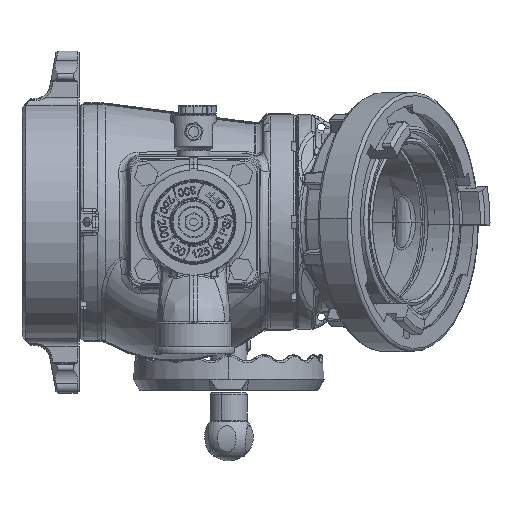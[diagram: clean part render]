
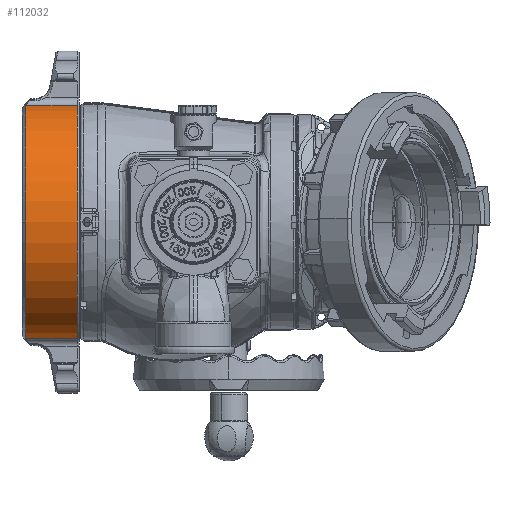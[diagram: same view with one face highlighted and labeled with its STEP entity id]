
A CAD part, front view. The second image highlights one B-rep face of the part: STEP entity #112032.
In plain terms, the highlighted cylindrical face has radius 98.425 mm (diameter 196.85 mm), a partial arc.
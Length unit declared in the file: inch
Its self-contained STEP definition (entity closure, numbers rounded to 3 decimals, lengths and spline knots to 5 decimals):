
#1856 = ORIENTED_EDGE ( 'NONE', *, *, #45121, .T. ) ;
#1859 = ORIENTED_EDGE ( 'NONE', *, *, #45125, .T. ) ;
#1862 = ORIENTED_EDGE ( 'NONE', *, *, #45128, .F. ) ;
#1865 = ORIENTED_EDGE ( 'NONE', *, *, #117697, .F. ) ;
#1868 = ORIENTED_EDGE ( 'NONE', *, *, #45130, .F. ) ;
#28394 = CARTESIAN_POINT ( 'NONE',  ( -6.01215, -1.13098, -3.81329 ) ) ;
#28396 = DIRECTION ( 'NONE',  ( 1., 0., 0. ) ) ;
#28401 = CARTESIAN_POINT ( 'NONE',  ( -6.01215, -1.13098, 3.81329 ) ) ;
#28406 = DIRECTION ( 'NONE',  ( 1., 0., 0. ) ) ;
#28423 = CARTESIAN_POINT ( 'NONE',  ( -4.21165, -0.44219, 0. ) ) ;
#28424 = DIRECTION ( 'NONE',  ( -1., 0., 0. ) ) ;
#28425 = DIRECTION ( 'NONE',  ( 0., 0., -1. ) ) ;
#28428 = CARTESIAN_POINT ( 'NONE',  ( -5.88715, -0.44219, 0. ) ) ;
#28429 = DIRECTION ( 'NONE',  ( -1., 0., 0. ) ) ;
#28430 = DIRECTION ( 'NONE',  ( 0., 1., 0. ) ) ;
#45121 = EDGE_CURVE ( 'NONE', #70167, #70149, #78098, .T. ) ;
#45125 = EDGE_CURVE ( 'NONE', #70149, #70158, #78094, .T. ) ;
#45128 = EDGE_CURVE ( 'NONE', #70770, #70158, #78100, .T. ) ;
#45130 = EDGE_CURVE ( 'NONE', #70167, #70773, #78104, .T. ) ;
#50483 = CARTESIAN_POINT ( 'NONE',  ( -4.21165, -1.13098, -3.81329 ) ) ;
#50487 = CARTESIAN_POINT ( 'NONE',  ( -4.21165, -1.13098, 3.81329 ) ) ;
#50493 = CARTESIAN_POINT ( 'NONE',  ( -5.88715, -1.13098, -3.81329 ) ) ;
#50773 = CARTESIAN_POINT ( 'NONE',  ( -5.88715, -1.13098, 3.81329 ) ) ;
#50775 = CARTESIAN_POINT ( 'NONE',  ( -5.88715, -4.31719, 0. ) ) ;
#59292 = FACE_OUTER_BOUND ( 'NONE', #135294, .T. ) ;
#59299 = CYLINDRICAL_SURFACE ( 'NONE', #69839, 3.875 ) ;
#69839 = AXIS2_PLACEMENT_3D ( 'NONE', #86588, #86584, #86572 ) ;
#70149 = VERTEX_POINT ( 'NONE', #50483 ) ;
#70158 = VERTEX_POINT ( 'NONE', #50487 ) ;
#70167 = VERTEX_POINT ( 'NONE', #50493 ) ;
#70770 = VERTEX_POINT ( 'NONE', #50773 ) ;
#70773 = VERTEX_POINT ( 'NONE', #50775 ) ;
#74138 = AXIS2_PLACEMENT_3D ( 'NONE', #153863, #153864, #153865 ) ;
#78094 = CIRCLE ( 'NONE', #138882, 3.875 ) ;
#78098 = LINE ( 'NONE', #28394, #78103 ) ;
#78100 = LINE ( 'NONE', #28401, #78108 ) ;
#78103 = VECTOR ( 'NONE', #28396, 39.37008 ) ;
#78104 = CIRCLE ( 'NONE', #138883, 3.875 ) ;
#78108 = VECTOR ( 'NONE', #28406, 39.37008 ) ;
#86572 = DIRECTION ( 'NONE',  ( 0., 0., -1. ) ) ;
#86584 = DIRECTION ( 'NONE',  ( 1., 0., 0. ) ) ;
#86588 = CARTESIAN_POINT ( 'NONE',  ( -6.01215, -0.44219, 0. ) ) ;
#112032 = ADVANCED_FACE ( 'NONE', ( #59292 ), #59299, .T. ) ;
#117697 = EDGE_CURVE ( 'NONE', #70773, #70770, #151960, .T. ) ;
#135294 = EDGE_LOOP ( 'NONE', ( #1856, #1859, #1862, #1865, #1868 ) ) ;
#138882 = AXIS2_PLACEMENT_3D ( 'NONE', #28423, #28424, #28425 ) ;
#138883 = AXIS2_PLACEMENT_3D ( 'NONE', #28428, #28429, #28430 ) ;
#151960 = CIRCLE ( 'NONE', #74138, 3.875 ) ;
#153863 = CARTESIAN_POINT ( 'NONE',  ( -5.88715, -0.44219, 0. ) ) ;
#153864 = DIRECTION ( 'NONE',  ( -1., 0., 0. ) ) ;
#153865 = DIRECTION ( 'NONE',  ( 0., 1., 0. ) ) ;
